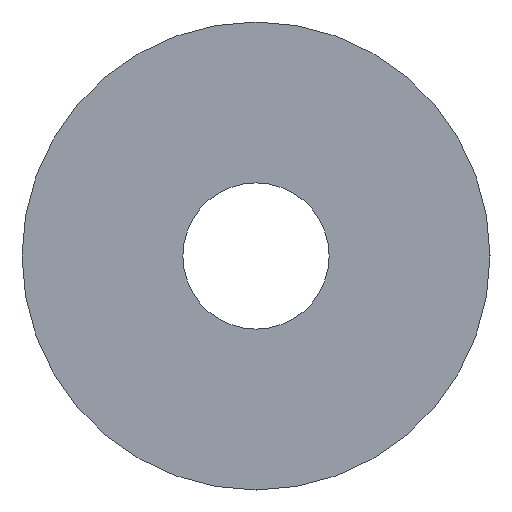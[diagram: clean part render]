
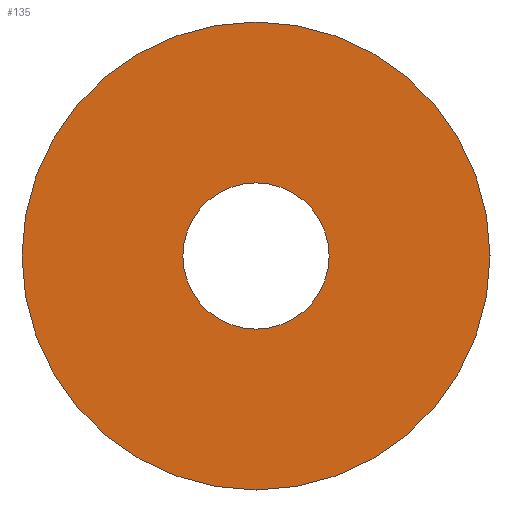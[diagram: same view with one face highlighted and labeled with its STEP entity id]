
A CAD part, front view. The second image highlights one B-rep face of the part: STEP entity #135.
In plain terms, the highlighted planar face has unit normal (0, -1, 0).
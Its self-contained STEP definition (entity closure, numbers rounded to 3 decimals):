
#2 = CARTESIAN_POINT ( 'NONE',  ( 0., 0., 8. ) ) ;
#4 = CARTESIAN_POINT ( 'NONE',  ( 0., 0., 2.5 ) ) ;
#7 = CARTESIAN_POINT ( 'NONE',  ( 0., 0., 0. ) ) ;
#16 = ORIENTED_EDGE ( 'NONE', *, *, #83, .T. ) ;
#19 = DIRECTION ( 'NONE',  ( 0., 0., 1. ) ) ;
#24 = VERTEX_POINT ( 'NONE', #2 ) ;
#31 = ORIENTED_EDGE ( 'NONE', *, *, #114, .F. ) ;
#34 = VERTEX_POINT ( 'NONE', #4 ) ;
#38 = CIRCLE ( 'NONE', #112, 8. ) ;
#45 = AXIS2_PLACEMENT_3D ( 'NONE', #62, #79, #99 ) ;
#46 = EDGE_LOOP ( 'NONE', ( #16 ) ) ;
#51 = PLANE ( 'NONE',  #45 ) ;
#55 = CIRCLE ( 'NONE', #70, 2.5 ) ;
#57 = CARTESIAN_POINT ( 'NONE',  ( 0., 0., 0. ) ) ;
#62 = CARTESIAN_POINT ( 'NONE',  ( 2.5, 0., 0. ) ) ;
#70 = AXIS2_PLACEMENT_3D ( 'NONE', #57, #136, #93 ) ;
#76 = DIRECTION ( 'NONE',  ( 0., 1., 0. ) ) ;
#79 = DIRECTION ( 'NONE',  ( 0., 1., 0. ) ) ;
#81 = EDGE_LOOP ( 'NONE', ( #31 ) ) ;
#83 = EDGE_CURVE ( 'NONE', #34, #34, #55, .T. ) ;
#86 = FACE_OUTER_BOUND ( 'NONE', #81, .T. ) ;
#93 = DIRECTION ( 'NONE',  ( 0., 0., 1. ) ) ;
#97 = FACE_BOUND ( 'NONE', #46, .T. ) ;
#99 = DIRECTION ( 'NONE',  ( 0., 0., 1. ) ) ;
#112 = AXIS2_PLACEMENT_3D ( 'NONE', #7, #76, #19 ) ;
#114 = EDGE_CURVE ( 'NONE', #24, #24, #38, .T. ) ;
#135 = ADVANCED_FACE ( 'NONE', ( #86, #97 ), #51, .F. ) ;
#136 = DIRECTION ( 'NONE',  ( 0., 1., 0. ) ) ;
